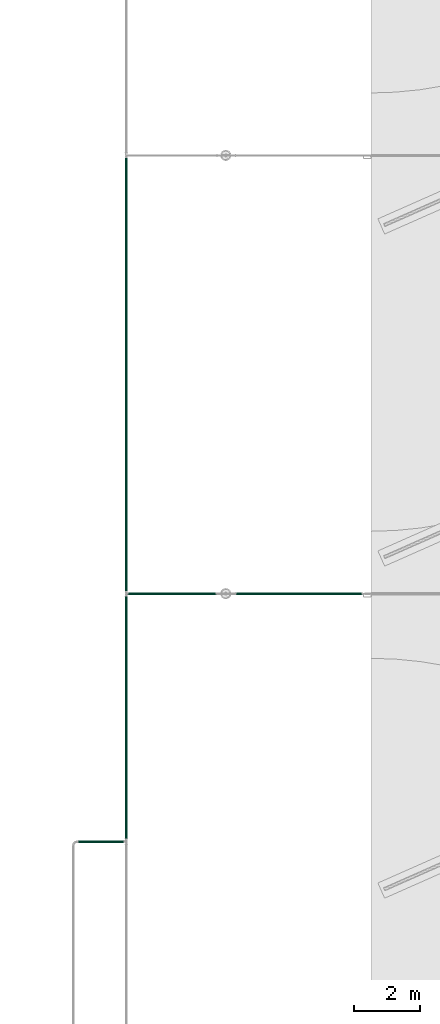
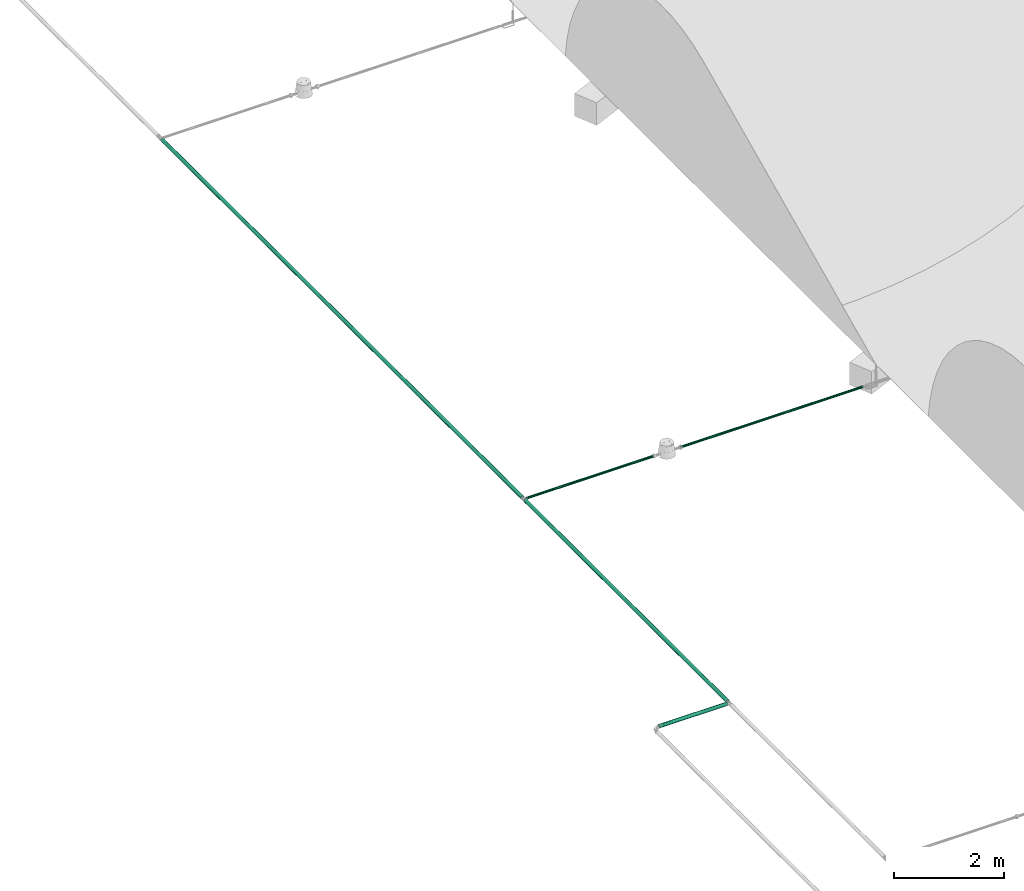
# One storey, part 15 of 166: 5 flow segments.
"""IFC2X3 building model written with IfcOpenShell, lengths in metres."""

from ifc_helpers import new_model, entity, si_unit, converted_unit, direction, frame, frame_2d, origin, origin_2d_with_axis, place, context, subcontext, project, spatial, circle, extrude, type_object, element, save


model = new_model("IFC2X3")

# Units and contexts
model_context = context("Model", 3, precision=1e-05, world=origin(), true_north=direction((6.123233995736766e-17, 1.0)))
body_context = subcontext(model_context, "Body", "Model", "MODEL_VIEW")
ifc_project = project(units=[si_unit("LENGTHUNIT", "METRE"), converted_unit("PLANEANGLEUNIT", "DEGREE", entity("IfcPlaneAngleMeasure", 0.017453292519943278), si_unit("PLANEANGLEUNIT", "RADIAN"), dimensions=[0, 0, 0, 0, 0, 0, 0]), si_unit("AREAUNIT", "SQUARE_METRE")], contexts=[model_context])

# Site, building, storey
site_placement = place(None, origin())
site = spatial("IfcSite", under=ifc_project, at=site_placement, Name="Default", CompositionType="ELEMENT")
building_placement = place(site_placement, origin())
building = spatial("IfcBuilding", under=site, at=building_placement, Name="CASA DE ACOLHIDA PARA IDOSOS", CompositionType="ELEMENT")
storey_placement = place(building_placement, frame((0.0, 0.0, -1.7499999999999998)))
storey = spatial("IfcBuildingStorey", under=building, at=storey_placement, Name="IMPLANTAÇÃO DRENAGEM", CompositionType="ELEMENT", Elevation=-1.7499999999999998)

# Flow segments
pipe_segment_type = type_object("IfcPipeSegmentType", Name="Tipos de tubos:AF_Tubo Marrom Soldável", PredefinedType="NOTDEFINED")
flow_segment_1_placement = place(storey_placement, origin())
element("IfcFlowSegment", 1, at=flow_segment_1_placement, inside=storey, type_object=pipe_segment_type, Name="Tipos de tubos:AF_Tubo Marrom Soldável", ObjectType="Tipos de tubos:AF_Tubo Marrom Soldável", context=body_context, shape_type="SweptSolid", body=[
    extrude(circle(Radius=0.037500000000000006, at=frame_2d((0.0, -2.707167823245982e-16), x_axis=(1.0, 0.0))), frame((-53.617191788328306, 15.389016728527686, -0.2000000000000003), z_axis=(1.0, 0.0, 0.0), x_axis=(0.0, -1.0, 0.0)), (0.0, 0.0, 1.0), 1.428838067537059),
])
flow_segment_2_placement = place(storey_placement, origin())
element("IfcFlowSegment", 2, at=flow_segment_2_placement, inside=storey, type_object=pipe_segment_type, Name="Tipos de tubos:AF_Tubo Marrom Soldável", ObjectType="Tipos de tubos:AF_Tubo Marrom Soldável", context=body_context, shape_type="SweptSolid", body=[
    extrude(circle(Radius=0.037500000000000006, at=origin_2d_with_axis()), frame((-52.13705372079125, 15.444316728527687, -0.2), z_axis=(0.0, 1.0, 0.0), x_axis=(-1.0, 0.0, 0.0)), (0.0, 0.0, 1.0), 7.356625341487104),
])
flow_segment_3_placement = place(storey_placement, origin())
element("IfcFlowSegment", 3, at=flow_segment_3_placement, inside=storey, type_object=pipe_segment_type, Name="Tipos de tubos:AF_Tubo Marrom Soldável", ObjectType="Tipos de tubos:AF_Tubo Marrom Soldável", context=body_context, shape_type="SweptSolid", body=[
    extrude(circle(Radius=0.025, at=frame_2d((0.0, -2.707167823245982e-16), x_axis=(1.0, 0.0))), frame((-52.088353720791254, 22.85494207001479, -0.2000000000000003), z_axis=(1.0, 0.0, 0.0), x_axis=(0.0, -1.0, 0.0)), (0.0, 0.0, 1.0), 2.6719000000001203),
])
flow_segment_4_placement = place(storey_placement, origin())
element("IfcFlowSegment", 4, at=flow_segment_4_placement, inside=storey, type_object=pipe_segment_type, Name="Tipos de tubos:AF_Tubo Marrom Soldável", ObjectType="Tipos de tubos:AF_Tubo Marrom Soldável", context=body_context, shape_type="SweptSolid", body=[
    extrude(circle(Radius=0.025, at=frame_2d((0.0, -2.707167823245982e-16), x_axis=(1.0, 0.0))), frame((-48.84234161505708, 22.85494207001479, -0.2000000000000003), z_axis=(1.0, 0.0, 0.0), x_axis=(0.0, -1.0, 0.0)), (0.0, 0.0, 1.0), 3.8187927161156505),
])
flow_segment_5_placement = place(storey_placement, origin())
element("IfcFlowSegment", 5, at=flow_segment_5_placement, inside=storey, type_object=pipe_segment_type, Name="Tipos de tubos:AF_Tubo Marrom Soldável", ObjectType="Tipos de tubos:AF_Tubo Marrom Soldável", context=body_context, shape_type="SweptSolid", body=[
    extrude(circle(Radius=0.037500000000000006, at=origin_2d_with_axis()), frame((-52.13705372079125, 22.908942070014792, -0.2), z_axis=(0.0, 1.0, 0.0), x_axis=(-1.0, 0.0, 0.0)), (0.0, 0.0, 1.0), 13.091999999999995),
])

save(model, "model.ifc")
